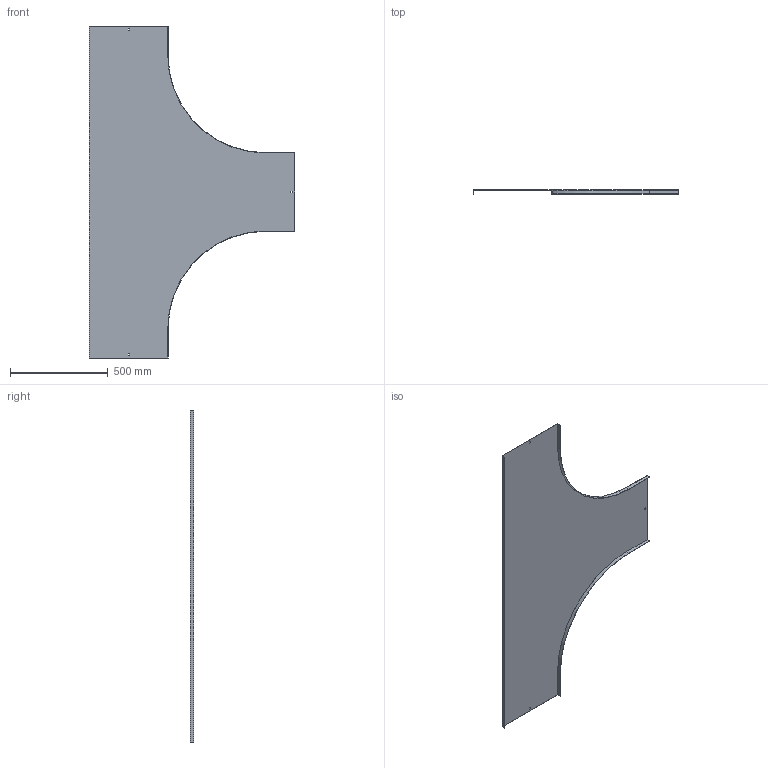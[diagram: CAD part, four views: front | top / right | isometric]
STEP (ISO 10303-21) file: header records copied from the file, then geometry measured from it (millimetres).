
FILE_DESCRIPTION (( 'STEP AP214' ), '1' );
FILE_NAME ('15N5R400.step', '2025-02-21T14:38:47', ( '' ), ( '' ), 'SwSTEP 2.0', 'SolidWorks 2023', '' );
FILE_SCHEMA (( 'AUTOMOTIVE_DESIGN' ));
Length unit declared in the file: millimetre
Products named in the file (1): 15N5R400
Bounding box: 1051.5 x 20 x 1700 mm (x, y, z)
Volume: 1686741.3 mm3; surface area: 2256907.1 mm2
Topology: 1 solids, 1 shells, 34 faces, 96 edges, 64 vertices
Faces by surface type: plane 30, cylinder 4
Entity records: 1123 total; most frequent: CARTESIAN_POINT 195, ORIENTED_EDGE 192, DIRECTION 174, EDGE_CURVE 96, LINE 88, VECTOR 88, VERTEX_POINT 64, AXIS2_PLACEMENT_3D 43
